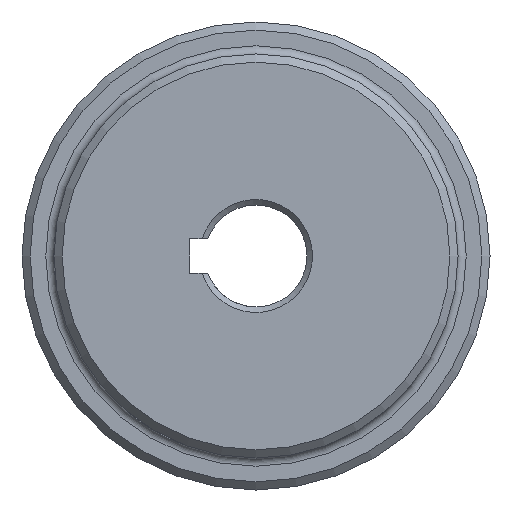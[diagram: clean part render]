
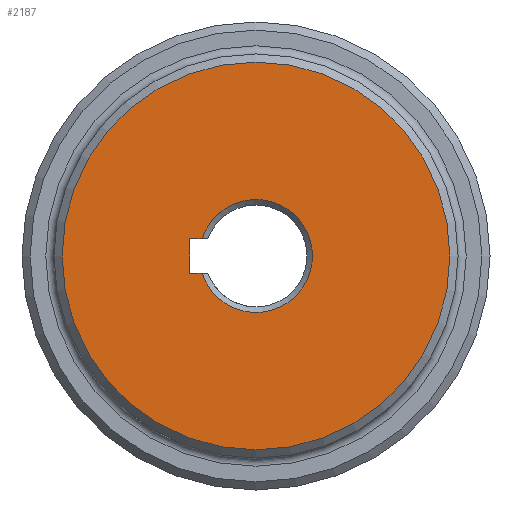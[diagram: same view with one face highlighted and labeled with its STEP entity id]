
A CAD part, left-side view. The second image highlights one B-rep face of the part: STEP entity #2187.
In plain terms, the highlighted planar face has unit normal (-1, 0, 0).
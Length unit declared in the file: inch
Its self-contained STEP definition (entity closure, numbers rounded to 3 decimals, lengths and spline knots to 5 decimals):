
#85 = PLANE ( 'NONE',  #1596 ) ;
#92 = AXIS2_PLACEMENT_3D ( 'NONE', #551, #1629, #1374 ) ;
#124 = LINE ( 'NONE', #1466, #1462 ) ;
#136 = EDGE_LOOP ( 'NONE', ( #2098, #1290, #1744, #1212 ) ) ;
#316 = LINE ( 'NONE', #1652, #1982 ) ;
#324 = EDGE_CURVE ( 'NONE', #1223, #629, #124, .T. ) ;
#551 = CARTESIAN_POINT ( 'NONE',  ( 0., 0., 0. ) ) ;
#629 = VERTEX_POINT ( 'NONE', #1579 ) ;
#681 = CARTESIAN_POINT ( 'NONE',  ( 0., 0., 0. ) ) ;
#793 = DIRECTION ( 'NONE',  ( -1., 0., 0. ) ) ;
#931 = EDGE_LOOP ( 'NONE', ( #1670 ) ) ;
#976 = CARTESIAN_POINT ( 'NONE',  ( 0., 0., 0. ) ) ;
#992 = AXIS2_PLACEMENT_3D ( 'NONE', #681, #793, #2111 ) ;
#1083 = EDGE_CURVE ( 'NONE', #2004, #2004, #1467, .T. ) ;
#1161 = DIRECTION ( 'NONE',  ( 0., 0., -1. ) ) ;
#1212 = ORIENTED_EDGE ( 'NONE', *, *, #324, .F. ) ;
#1223 = VERTEX_POINT ( 'NONE', #1239 ) ;
#1239 = CARTESIAN_POINT ( 'NONE',  ( 0., 0.48785, 0.125 ) ) ;
#1240 = DIRECTION ( 'NONE',  ( 0., 0., -1. ) ) ;
#1242 = EDGE_CURVE ( 'NONE', #629, #1427, #1733, .T. ) ;
#1272 = EDGE_CURVE ( 'NONE', #1302, #1223, #316, .T. ) ;
#1290 = ORIENTED_EDGE ( 'NONE', *, *, #1841, .T. ) ;
#1302 = VERTEX_POINT ( 'NONE', #1910 ) ;
#1357 = CARTESIAN_POINT ( 'NONE',  ( 0., 0., -0.125 ) ) ;
#1374 = DIRECTION ( 'NONE',  ( 0., 0., -1. ) ) ;
#1427 = VERTEX_POINT ( 'NONE', #2218 ) ;
#1462 = VECTOR ( 'NONE', #1240, 39.37008 ) ;
#1466 = CARTESIAN_POINT ( 'NONE',  ( 0., 0.48785, -0.125 ) ) ;
#1467 = CIRCLE ( 'NONE', #992, 1.425 ) ;
#1575 = DIRECTION ( 'NONE',  ( 1., 0., 0. ) ) ;
#1579 = CARTESIAN_POINT ( 'NONE',  ( 0., 0.48785, -0.125 ) ) ;
#1580 = DIRECTION ( 'NONE',  ( 0., 1., 0. ) ) ;
#1596 = AXIS2_PLACEMENT_3D ( 'NONE', #976, #1575, #1161 ) ;
#1629 = DIRECTION ( 'NONE',  ( 1., 0., 0. ) ) ;
#1652 = CARTESIAN_POINT ( 'NONE',  ( 0., 0., 0.125 ) ) ;
#1670 = ORIENTED_EDGE ( 'NONE', *, *, #1083, .T. ) ;
#1733 = LINE ( 'NONE', #1357, #2239 ) ;
#1744 = ORIENTED_EDGE ( 'NONE', *, *, #1242, .F. ) ;
#1792 = CARTESIAN_POINT ( 'NONE',  ( 0., 0., -1.425 ) ) ;
#1841 = EDGE_CURVE ( 'NONE', #1302, #1427, #2171, .T. ) ;
#1910 = CARTESIAN_POINT ( 'NONE',  ( 0., 0.39588, 0.125 ) ) ;
#1982 = VECTOR ( 'NONE', #1580, 39.37008 ) ;
#2004 = VERTEX_POINT ( 'NONE', #1792 ) ;
#2015 = DIRECTION ( 'NONE',  ( 0., -1., 0. ) ) ;
#2047 = FACE_BOUND ( 'NONE', #136, .T. ) ;
#2098 = ORIENTED_EDGE ( 'NONE', *, *, #1272, .F. ) ;
#2111 = DIRECTION ( 'NONE',  ( 0., 0., -1. ) ) ;
#2114 = FACE_OUTER_BOUND ( 'NONE', #931, .T. ) ;
#2171 = CIRCLE ( 'NONE', #92, 0.41515 ) ;
#2187 = ADVANCED_FACE ( 'NONE', ( #2114, #2047 ), #85, .F. ) ;
#2218 = CARTESIAN_POINT ( 'NONE',  ( 0., 0.39588, -0.125 ) ) ;
#2239 = VECTOR ( 'NONE', #2015, 39.37008 ) ;
